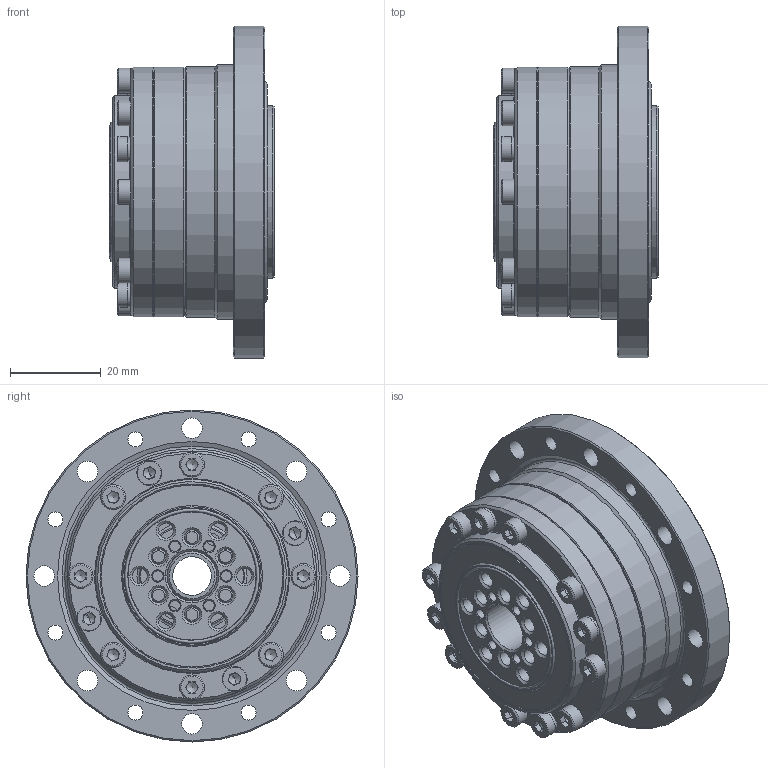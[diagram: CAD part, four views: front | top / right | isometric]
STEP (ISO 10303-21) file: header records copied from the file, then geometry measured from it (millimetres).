
FILE_DESCRIPTION(/* description */ (''),/* implementation_level */ '2;1');
FILE_NAME(/* name */ 'Getriebeset_CTG_Plus_BG35_FK.stp',/* time_stamp */ '2026-03-10T14:12:40+01:00',/* author */ (''),/* organization */ (''),/* preprocessor_version */ 'ST-DEVELOPER v19.4',/* originating_system */ 'SIEMENS PLM Software NX2212.9120',/* authorisation */ '');
FILE_SCHEMA (('AUTOMOTIVE_DESIGN { 1 0 10303 214 3 1 1 1 }'));
Length unit declared in the file: millimetre
Products named in the file (1): Getriebeset_CTG_Plus_BG35_FK
Bounding box: 36.3 x 73 x 73 mm (x, y, z)
Volume: 69037.8 mm3; surface area: 56799.1 mm2
Topology: 94 solids, 94 shells, 1122 faces, 2547 edges, 1611 vertices
Faces by surface type: plane 458, cylinder 276, cone 186, torus 165, sphere 35, bspline 2
Full cylindrical faces by diameter (mm): 2.3 x6, 2.5 x26, 2.6 x2, 3 x54, 3.3 x20, 3.6 x20, 4 x6, 4.5 x26, 5.3 x4, 5.5 x12, 7 x6, 8.5 x1, 11 x3, 11.5 x1, 13.5 x1, 22 x1, 23 x2, 23.94 x2, 24.5 x1, 25 x3, 27 x3, 27.01 x1, 28.3 x1, 29.7 x1, 30 x2, 31 x2, 32 x2, 33.8 x2, 34.1 x2, 34.5 x1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
Entity records: 29972 total; most frequent: CARTESIAN_POINT 6928, DIRECTION 4846, ORIENTED_EDGE 3430, AXIS2_PLACEMENT_3D 2160, EDGE_LOOP 1874, EDGE_CURVE 1715, FACE_BOUND 1465, VERTEX_POINT 1400
